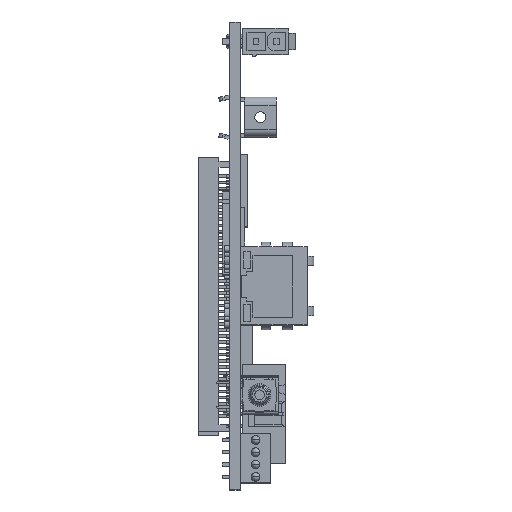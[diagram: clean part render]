
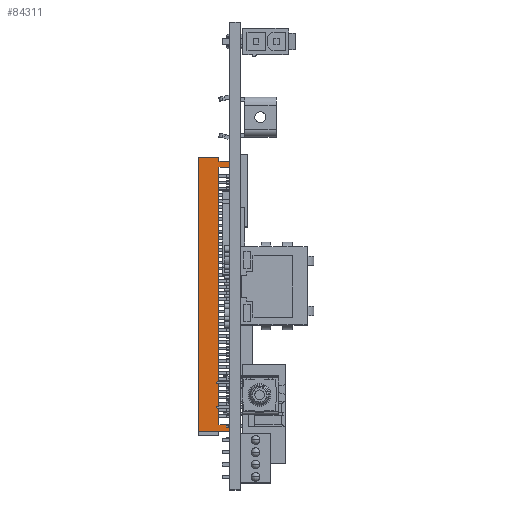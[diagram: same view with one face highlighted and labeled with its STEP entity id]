
A CAD part, top view. The second image highlights one B-rep face of the part: STEP entity #84311.
In plain terms, the highlighted planar face has unit normal (0, 0, 1).
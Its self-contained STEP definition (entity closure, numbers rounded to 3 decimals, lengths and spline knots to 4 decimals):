
#77=DIRECTION('',(0.,-1.,0.));
#78=VECTOR('',#77,2.229);
#79=CARTESIAN_POINT('',(-0.258,2.581,0.2255));
#80=LINE('',#79,#78);
#749=DIRECTION('',(-1.,0.,0.));
#750=VECTOR('',#749,0.17);
#751=CARTESIAN_POINT('',(-0.088,2.581,0.2255));
#752=LINE('',#751,#750);
#785=DIRECTION('',(-1.,0.,0.));
#786=VECTOR('',#785,0.088);
#787=CARTESIAN_POINT('',(0.,0.402,0.2255));
#788=LINE('',#787,#786);
#1503=DIRECTION('',(0.,-1.,0.));
#1504=VECTOR('',#1503,0.05);
#1505=CARTESIAN_POINT('',(0.,0.402,0.2255));
#1506=LINE('',#1505,#1504);
#1547=DIRECTION('',(0.,-1.,0.));
#1548=VECTOR('',#1547,0.05);
#1549=CARTESIAN_POINT('',(0.,2.548,0.2255));
#1550=LINE('',#1549,#1548);
#5847=DIRECTION('',(1.,0.,0.));
#5848=VECTOR('',#5847,0.088);
#5849=CARTESIAN_POINT('',(-0.088,2.498,0.2255));
#5850=LINE('',#5849,#5848);
#6971=DIRECTION('',(0.,-1.,0.));
#6972=VECTOR('',#6971,2.096);
#6973=CARTESIAN_POINT('',(-0.088,2.498,0.2255));
#6974=LINE('',#6973,#6972);
#6975=DIRECTION('',(-1.,0.,0.));
#6976=VECTOR('',#6975,0.258);
#6977=CARTESIAN_POINT('',(0.,0.352,0.2255));
#6978=LINE('',#6977,#6976);
#6979=DIRECTION('',(0.,-1.,0.));
#6980=VECTOR('',#6979,0.033);
#6981=CARTESIAN_POINT('',(-0.088,2.581,0.2255));
#6982=LINE('',#6981,#6980);
#7019=DIRECTION('',(-1.,0.,0.));
#7020=VECTOR('',#7019,0.088);
#7021=CARTESIAN_POINT('',(0.,2.548,0.2255));
#7022=LINE('',#7021,#7020);
#70010=CARTESIAN_POINT('',(-0.088,0.402,0.2255));
#70011=VERTEX_POINT('',#70010);
#70012=CARTESIAN_POINT('',(-0.088,2.498,0.2255));
#70013=VERTEX_POINT('',#70012);
#71374=CARTESIAN_POINT('',(-0.088,2.581,0.2255));
#71375=CARTESIAN_POINT('',(-0.088,2.548,0.2255));
#71376=VERTEX_POINT('',#71374);
#71377=VERTEX_POINT('',#71375);
#71402=CARTESIAN_POINT('',(-0.258,0.352,0.2255));
#71403=VERTEX_POINT('',#71402);
#71404=CARTESIAN_POINT('',(-0.258,2.581,0.2255));
#71405=VERTEX_POINT('',#71404);
#72894=CARTESIAN_POINT('',(0.,0.352,0.2255));
#72895=VERTEX_POINT('',#72894);
#72896=CARTESIAN_POINT('',(0.,2.548,0.2255));
#72897=CARTESIAN_POINT('',(0.,2.498,0.2255));
#72898=VERTEX_POINT('',#72896);
#72899=VERTEX_POINT('',#72897);
#72900=CARTESIAN_POINT('',(0.,0.402,0.2255));
#72901=VERTEX_POINT('',#72900);
#84292=CARTESIAN_POINT('',(-0.129,1.4665,0.2255));
#84293=DIRECTION('',(0.,0.,-1.));
#84294=DIRECTION('',(0.,-1.,0.));
#84295=AXIS2_PLACEMENT_3D('',#84292,#84293,#84294);
#84296=PLANE('',#84295);
#84297=ORIENTED_EDGE('',*,*,#77431,.T.);
#84298=ORIENTED_EDGE('',*,*,#81634,.F.);
#84299=ORIENTED_EDGE('',*,*,#81646,.T.);
#84300=ORIENTED_EDGE('',*,*,#76974,.F.);
#84301=ORIENTED_EDGE('',*,*,#77412,.T.);
#84303=ORIENTED_EDGE('',*,*,#84302,.T.);
#84304=ORIENTED_EDGE('',*,*,#76218,.F.);
#84305=ORIENTED_EDGE('',*,*,#76907,.F.);
#84306=ORIENTED_EDGE('',*,*,#76925,.T.);
#84308=ORIENTED_EDGE('',*,*,#84307,.F.);
#84309=EDGE_LOOP('',(#84297,#84298,#84299,#84300,#84301,#84303,#84304,#84305,
#84306,#84308));
#84310=FACE_OUTER_BOUND('',#84309,.F.);
#84311=ADVANCED_FACE('',(#84310),#84296,.F.);
#76218=EDGE_CURVE('',#71405,#71403,#80,.T.);
#76907=EDGE_CURVE('',#71376,#71405,#752,.T.);
#76925=EDGE_CURVE('',#71376,#71377,#6982,.T.);
#76974=EDGE_CURVE('',#72901,#70011,#788,.T.);
#77412=EDGE_CURVE('',#72901,#72895,#1506,.T.);
#77431=EDGE_CURVE('',#72898,#72899,#1550,.T.);
#81634=EDGE_CURVE('',#70013,#72899,#5850,.T.);
#81646=EDGE_CURVE('',#70013,#70011,#6974,.T.);
#84302=EDGE_CURVE('',#72895,#71403,#6978,.T.);
#84307=EDGE_CURVE('',#72898,#71377,#7022,.T.);
